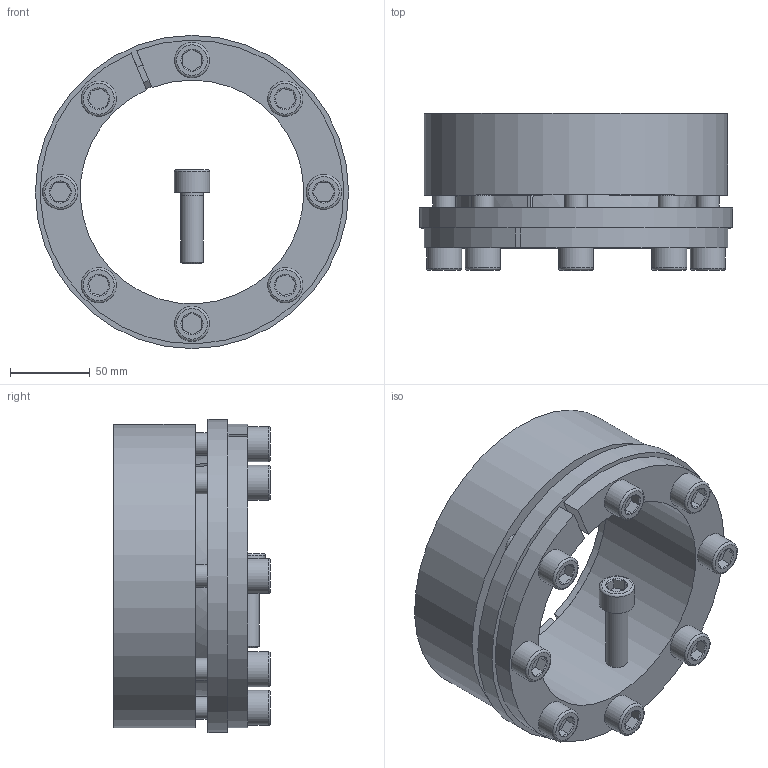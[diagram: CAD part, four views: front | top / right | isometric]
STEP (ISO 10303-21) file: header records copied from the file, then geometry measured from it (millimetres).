
FILE_DESCRIPTION( ( 'Unknown' ), '1' );
FILE_NAME( 'C:/Dokumente und Einstellungen/Sven/Desktop/homepage/cad - homepage/KBS71/KBS 71 - 140 x 190.stp', 'Unknown', ( 'Unknown' ), ( 'Unknown' ), 'XStep 1.0', 'Unknown', ' ' );
FILE_SCHEMA( ( 'automotive_design' ) );
Length unit declared in the file: millimetre
Products named in the file (3): Assem1; KBS 71 - 140 x 190; ISO EN DIN 4762 M14x45
Bounding box: 196 x 98 x 196 mm (x, y, z)
Volume: 1950624.5 mm3; surface area: 360712.1 mm2
Topology: 11 solids, 11 shells, 305 faces, 659 edges, 394 vertices
Faces by surface type: plane 140, cylinder 76, cone 71, torus 18
Full cylindrical faces by diameter (mm): 12 x9, 14 x50, 22 x9, 196 x2
Entity records: 2330 total; most frequent: CARTESIAN_POINT 377, DIRECTION 352, ORIENTED_EDGE 272, AXIS2_PLACEMENT_3D 151, EDGE_CURVE 136, EDGE_LOOP 122, VERTEX_POINT 96, FACE_OUTER_BOUND 88
